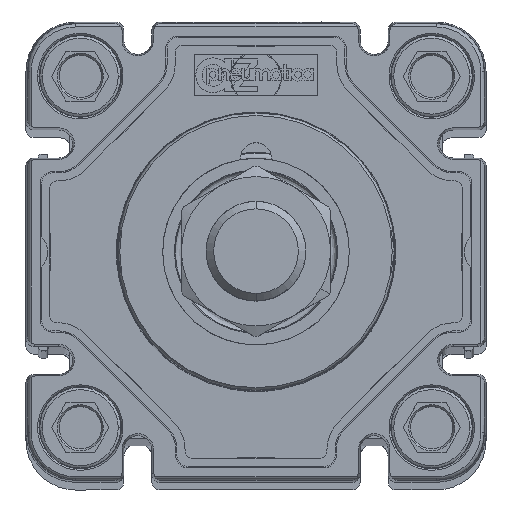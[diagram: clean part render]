
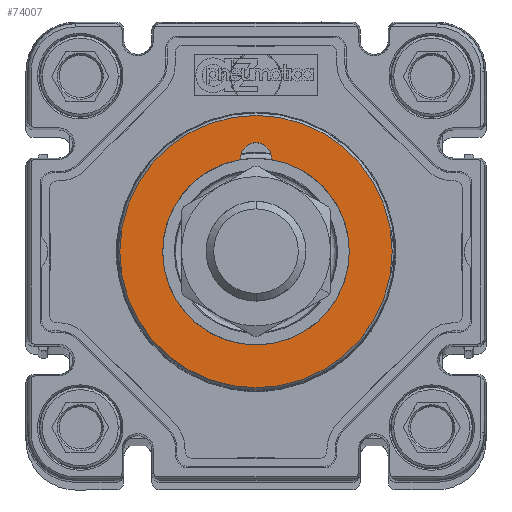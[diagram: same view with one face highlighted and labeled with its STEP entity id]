
A CAD part, top view. The second image highlights one B-rep face of the part: STEP entity #74007.
In plain terms, the highlighted planar face has unit normal (0, 0, 1) as drawn and (0, 0, -1) by its records, which use the part's own axes.
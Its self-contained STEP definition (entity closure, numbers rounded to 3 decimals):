
#771 = DIRECTION ( 'NONE',  ( 1., 0., 0. ) ) ;
#4395 = ORIENTED_EDGE ( 'NONE', *, *, #71488, .F. ) ;
#5926 = DIRECTION ( 'NONE',  ( -1., 0., 0. ) ) ;
#6883 = AXIS2_PLACEMENT_3D ( 'NONE', #49481, #11735, #34136 ) ;
#8562 = AXIS2_PLACEMENT_3D ( 'NONE', #40190, #18117, #91574 ) ;
#10521 = ORIENTED_EDGE ( 'NONE', *, *, #25652, .T. ) ;
#11328 = DIRECTION ( 'NONE',  ( 1., 0., 0. ) ) ;
#11735 = DIRECTION ( 'NONE',  ( 0., 0., 1. ) ) ;
#12103 = AXIS2_PLACEMENT_3D ( 'NONE', #42445, #93192, #5926 ) ;
#14330 = CARTESIAN_POINT ( 'NONE',  ( -2.5, 15., -57.7 ) ) ;
#15891 = VERTEX_POINT ( 'NONE', #51396 ) ;
#16336 = EDGE_CURVE ( 'NONE', #15891, #26984, #32114, .T. ) ;
#18117 = DIRECTION ( 'NONE',  ( 0., 0., 1. ) ) ;
#18760 = EDGE_CURVE ( 'NONE', #64530, #67434, #44360, .T. ) ;
#19924 = ORIENTED_EDGE ( 'NONE', *, *, #51842, .T. ) ;
#20489 = CARTESIAN_POINT ( 'NONE',  ( 2.491, 14.792, -57.7 ) ) ;
#21819 = CIRCLE ( 'NONE', #72864, 15. ) ;
#23503 = FACE_BOUND ( 'NONE', #36209, .T. ) ;
#24459 = ORIENTED_EDGE ( 'NONE', *, *, #59704, .T. ) ;
#25652 = EDGE_CURVE ( 'NONE', #27953, #52718, #70480, .T. ) ;
#26287 = EDGE_CURVE ( 'NONE', #67434, #56502, #39832, .T. ) ;
#26984 = VERTEX_POINT ( 'NONE', #60137 ) ;
#27064 = DIRECTION ( 'NONE',  ( 0., 0., 1. ) ) ;
#27372 = CARTESIAN_POINT ( 'NONE',  ( 0., 0., -57.7 ) ) ;
#27953 = VERTEX_POINT ( 'NONE', #20489 ) ;
#28033 = ORIENTED_EDGE ( 'NONE', *, *, #37909, .T. ) ;
#30482 = AXIS2_PLACEMENT_3D ( 'NONE', #43405, #73302, #73926 ) ;
#30493 = CARTESIAN_POINT ( 'NONE',  ( 2.5, 15., -57.7 ) ) ;
#32114 = CIRCLE ( 'NONE', #76025, 21.892 ) ;
#33799 = FACE_OUTER_BOUND ( 'NONE', #77944, .T. ) ;
#34136 = DIRECTION ( 'NONE',  ( -1., 0., 0. ) ) ;
#36209 = EDGE_LOOP ( 'NONE', ( #10521, #24459, #19924, #49756, #43284, #28033 ) ) ;
#36305 = CARTESIAN_POINT ( 'NONE',  ( 0., 0., -57.7 ) ) ;
#37909 = EDGE_CURVE ( 'NONE', #56502, #27953, #21819, .T. ) ;
#38528 = CARTESIAN_POINT ( 'NONE',  ( -2.491, 14.792, -57.7 ) ) ;
#39832 = CIRCLE ( 'NONE', #67686, 15. ) ;
#40190 = CARTESIAN_POINT ( 'NONE',  ( 0., 15., -57.7 ) ) ;
#40264 = DIRECTION ( 'NONE',  ( -1., 0., 0. ) ) ;
#41810 = PLANE ( 'NONE',  #12103 ) ;
#42445 = CARTESIAN_POINT ( 'NONE',  ( 0., 0., -57.7 ) ) ;
#43284 = ORIENTED_EDGE ( 'NONE', *, *, #26287, .T. ) ;
#43405 = CARTESIAN_POINT ( 'NONE',  ( 0., 15., -57.7 ) ) ;
#44360 = CIRCLE ( 'NONE', #90289, 15. ) ;
#44683 = DIRECTION ( 'NONE',  ( 0., 0., 1. ) ) ;
#47415 = CARTESIAN_POINT ( 'NONE',  ( 0., 0., -57.7 ) ) ;
#49193 = ORIENTED_EDGE ( 'NONE', *, *, #16336, .F. ) ;
#49481 = CARTESIAN_POINT ( 'NONE',  ( 0., 0., -57.7 ) ) ;
#49756 = ORIENTED_EDGE ( 'NONE', *, *, #18760, .T. ) ;
#51026 = DIRECTION ( 'NONE',  ( -1., 0., 0. ) ) ;
#51396 = CARTESIAN_POINT ( 'NONE',  ( -21.892, 0., -57.7 ) ) ;
#51774 = CARTESIAN_POINT ( 'NONE',  ( 0., 0., -57.7 ) ) ;
#51842 = EDGE_CURVE ( 'NONE', #52976, #64530, #86979, .T. ) ;
#52718 = VERTEX_POINT ( 'NONE', #30493 ) ;
#52976 = VERTEX_POINT ( 'NONE', #14330 ) ;
#54797 = AXIS2_PLACEMENT_3D ( 'NONE', #62054, #84279, #40264 ) ;
#56502 = VERTEX_POINT ( 'NONE', #68211 ) ;
#59704 = EDGE_CURVE ( 'NONE', #52718, #52976, #66467, .T. ) ;
#60137 = CARTESIAN_POINT ( 'NONE',  ( 21.892, 0., -57.7 ) ) ;
#62054 = CARTESIAN_POINT ( 'NONE',  ( 0., 15., -57.7 ) ) ;
#64530 = VERTEX_POINT ( 'NONE', #38528 ) ;
#66467 = CIRCLE ( 'NONE', #30482, 2.5 ) ;
#66769 = CARTESIAN_POINT ( 'NONE',  ( -15., 0., -57.7 ) ) ;
#67434 = VERTEX_POINT ( 'NONE', #66769 ) ;
#67686 = AXIS2_PLACEMENT_3D ( 'NONE', #27372, #27064, #78324 ) ;
#68211 = CARTESIAN_POINT ( 'NONE',  ( 15., 0., -57.7 ) ) ;
#70480 = CIRCLE ( 'NONE', #54797, 2.5 ) ;
#71488 = EDGE_CURVE ( 'NONE', #26984, #15891, #73071, .T. ) ;
#72864 = AXIS2_PLACEMENT_3D ( 'NONE', #51774, #44683, #771 ) ;
#73071 = CIRCLE ( 'NONE', #6883, 21.892 ) ;
#73302 = DIRECTION ( 'NONE',  ( 0., 0., 1. ) ) ;
#73926 = DIRECTION ( 'NONE',  ( -1., 0., 0. ) ) ;
#74007 = ADVANCED_FACE ( 'NONE', ( #33799, #23503 ), #41810, .T. ) ;
#76025 = AXIS2_PLACEMENT_3D ( 'NONE', #36305, #88616, #51026 ) ;
#77944 = EDGE_LOOP ( 'NONE', ( #49193, #4395 ) ) ;
#78324 = DIRECTION ( 'NONE',  ( 1., 0., 0. ) ) ;
#84279 = DIRECTION ( 'NONE',  ( 0., 0., 1. ) ) ;
#86979 = CIRCLE ( 'NONE', #8562, 2.5 ) ;
#88616 = DIRECTION ( 'NONE',  ( 0., 0., 1. ) ) ;
#90289 = AXIS2_PLACEMENT_3D ( 'NONE', #47415, #91507, #11328 ) ;
#91507 = DIRECTION ( 'NONE',  ( 0., 0., 1. ) ) ;
#91574 = DIRECTION ( 'NONE',  ( -1., 0., 0. ) ) ;
#93192 = DIRECTION ( 'NONE',  ( 0., 0., -1. ) ) ;
